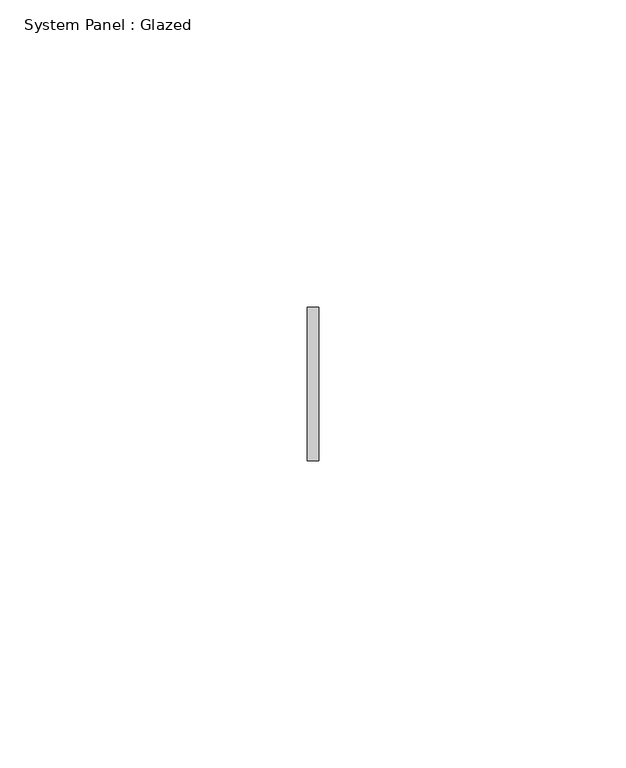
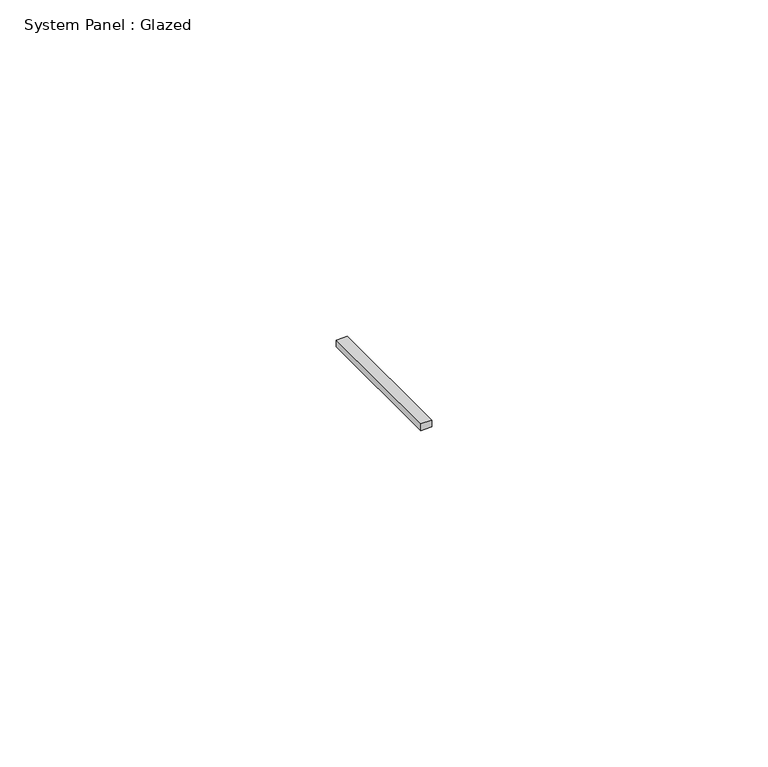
"""IFC4 building model written with IfcOpenShell, lengths in millimetres: plate geometry, System Panel : Glazed."""

import ifcopenshell
import ifcopenshell.guid

model = None  # the IFC model being written
_history = None  # IfcOwnerHistory: only IFC2X3 demands one
_inside = {}  # id of a spatial element -> (the spatial element, [elements in it])
_under = {}  # id of a project, library or spatial element -> (it, [spatial elements below it])
_declared = {}  # id of a project -> (the project, [libraries it declares])
_typed = {}  # id of a type object -> (the type object, [elements of that type])
_made_of = {}  # id of a material, layer set ... -> (it, [elements and type objects made of it])


def new_model(schema):
    """Start an empty IFC model of exactly this schema.

    Asked for "IFC4X3", IfcOpenShell would pick the latest addendum, in which some entities
    have other attributes; the version numbers below select the first issue.
    IFC2X3 requires an IfcOwnerHistory on every rooted entity: one is made here for all.
    """
    global model, _history
    if schema == "IFC4X3":
        model = ifcopenshell.file(schema_version=(4, 3, 0, 0))
    else:
        model = ifcopenshell.file(schema=schema)
    _inside.clear()
    _under.clear()
    _declared.clear()
    _typed.clear()
    _made_of.clear()
    _history = None
    if model.schema == "IFC2X3":
        org = make("IfcOrganization", Name="unknown")
        user = make(
            "IfcPersonAndOrganization",
            ThePerson=make("IfcPerson", FamilyName="unknown"),
            TheOrganization=org,
        )
        app = make(
            "IfcApplication",
            ApplicationDeveloper=org,
            Version="unknown",
            ApplicationFullName="unknown",
            ApplicationIdentifier="unknown",
        )
        _history = make(
            "IfcOwnerHistory",
            OwningUser=user,
            OwningApplication=app,
            ChangeAction="ADDED",
            CreationDate=0,
        )
    return model


def make(cls, **values):
    """One entity of the class cls with the attributes given. An attribute that is None is left unset."""
    return model.create_entity(
        cls, **{name: value for name, value in values.items() if value is not None}
    )


def rooted(cls, **values):
    """An entity with a GlobalId (a new one), such as an element, a storey or a relation."""
    return make(cls, GlobalId=ifcopenshell.guid.new(), OwnerHistory=_history, **values)


def si_unit(unit_type, name, prefix=None):
    """IfcSIUnit, for example si_unit("LENGTHUNIT", "METRE", prefix="MILLI")."""
    return make("IfcSIUnit", UnitType=unit_type, Prefix=prefix, Name=name)


def assignment(units):
    """IfcUnitAssignment: the units of a project."""
    return None if units is None else make("IfcUnitAssignment", Units=units)


def point(xyz):
    """IfcCartesianPoint."""
    return None if xyz is None else make("IfcCartesianPoint", Coordinates=xyz)


def direction(xyz):
    """IfcDirection."""
    return None if xyz is None else make("IfcDirection", DirectionRatios=xyz)


def frame(location, z_axis=None, x_axis=None):
    """IfcAxis2Placement3D, a coordinate frame: its origin and axes. An axis left out is left unset."""
    return make(
        "IfcAxis2Placement3D",
        Location=point(location),
        Axis=direction(z_axis),
        RefDirection=direction(x_axis),
    )


def origin():
    """The frame at (0, 0, 0) with its axes left unset."""
    return frame((0.0, 0.0, 0.0))


def origin_with_axes():
    """The frame at (0, 0, 0) with the z axis (0, 0, 1) and the x axis (1, 0, 0) written out."""
    return frame((0.0, 0.0, 0.0), z_axis=(0.0, 0.0, 1.0), x_axis=(1.0, 0.0, 0.0))


def place(relative_to, where):
    """IfcLocalPlacement: puts the frame where relative to a parent placement (None: the world)."""
    return make(
        "IfcLocalPlacement", PlacementRelTo=relative_to, RelativePlacement=where
    )


def context(
    kind, dimensions, precision=None, world=None, true_north=None, identifier=None
):
    """IfcGeometricRepresentationContext, for example the 3D "Model" context."""
    return make(
        "IfcGeometricRepresentationContext",
        ContextIdentifier=identifier,
        ContextType=kind,
        CoordinateSpaceDimension=dimensions,
        Precision=precision,
        WorldCoordinateSystem=world,
        TrueNorth=true_north,
    )


def project(units=None, contexts=None):
    """IfcProject with its units and contexts."""
    return rooted(
        "IfcProject",
        Name="project",
        RepresentationContexts=contexts,
        UnitsInContext=assignment(units),
    )


def spatial(cls, under=None, at=None, **own):
    """A site, building, storey or space (cls), placed at a placement, below another one or the project."""
    s = rooted(cls, ObjectPlacement=at, **own)
    if under is not None:
        _under.setdefault(under.id(), (under, []))[1].append(s)
    return s


def polyline(points):
    """IfcPolyline through the points."""
    return make("IfcPolyline", Points=[point(p) for p in points])


def outline(outer, holes=None, kind="AREA"):
    """IfcArbitraryClosedProfileDef: a profile drawn as a closed curve; with holes, ...WithVoids."""
    if holes is None:
        return make("IfcArbitraryClosedProfileDef", ProfileType=kind, OuterCurve=outer)
    return make(
        "IfcArbitraryProfileDefWithVoids",
        ProfileType=kind,
        OuterCurve=outer,
        InnerCurves=holes,
    )


def extrude(swept, where, along, depth):
    """IfcExtrudedAreaSolid: the profile swept, set in the frame where, extruded along a direction by depth."""
    return make(
        "IfcExtrudedAreaSolid",
        SweptArea=swept,
        Position=where,
        ExtrudedDirection=direction(along),
        Depth=depth,
    )


def shape(context_of_items, identifier, shape_type, items):
    """IfcShapeRepresentation: the items that make up one representation, for example the "Body"."""
    return make(
        "IfcShapeRepresentation",
        ContextOfItems=context_of_items,
        RepresentationIdentifier=identifier,
        RepresentationType=shape_type,
        Items=items,
    )


def source(mapping_origin, context_of_items, identifier, shape_type, items):
    """IfcRepresentationMap: a shape defined once, which mapped items show again and again."""
    return make(
        "IfcRepresentationMap",
        MappingOrigin=mapping_origin,
        MappedRepresentation=shape(context_of_items, identifier, shape_type, items),
    )


def transform(
    local_origin,
    x_axis=None,
    y_axis=None,
    z_axis=None,
    scale=None,
    scale2=None,
    scale3=None,
    uniform=True,
):
    """IfcCartesianTransformationOperator3D, or its non-uniform kind. x_axis, y_axis, z_axis: its Axis1, 2, 3."""
    if uniform:
        return make(
            "IfcCartesianTransformationOperator3D",
            Axis1=direction(x_axis),
            Axis2=direction(y_axis),
            LocalOrigin=point(local_origin),
            Scale=scale,
            Axis3=direction(z_axis),
        )
    return make(
        "IfcCartesianTransformationOperator3DnonUniform",
        Axis1=direction(x_axis),
        Axis2=direction(y_axis),
        LocalOrigin=point(local_origin),
        Scale=scale,
        Axis3=direction(z_axis),
        Scale2=scale2,
        Scale3=scale3,
    )


def mapped(mapping_source, mapping_target):
    """IfcMappedItem: shows the shape of a source again, moved by a transform."""
    return make(
        "IfcMappedItem", MappingSource=mapping_source, MappingTarget=mapping_target
    )


def made_of(thing, what):
    """Note that an element or type object is made of a material, layer set ...; save() writes the relation."""
    if what is not None:
        _made_of.setdefault(what.id(), (what, []))[1].append(thing)
    return thing


def element(
    cls,
    number,
    at=None,
    inside=None,
    cuts=None,
    type_object=None,
    material=None,
    context=None,
    identifier="Body",
    shape_type=None,
    held_by="IfcProductDefinitionShape",
    body=None,
    shapes=None,
    **own,
):
    """One element of the class cls, such as IfcWall. Its Tag is "e" and its number.

    at: its placement. inside: the storey or other place that contains it. cuts: it is an
    opening in that element (IfcRelVoidsElement). A single representation is given by context,
    identifier, shape_type and body (its items); several are given by shapes. held_by: the class
    of the entity that holds the representations. save() writes the other relations.
    """
    e = rooted(cls, Tag="e%d" % number, ObjectPlacement=at, **own)
    if body is not None:
        shapes = [shape(context, identifier, shape_type, body)]
    if shapes is not None:
        e.Representation = make(held_by, Representations=shapes)
    if inside is not None:
        _inside.setdefault(inside.id(), (inside, []))[1].append(e)
    if cuts is not None:
        rooted(
            "IfcRelVoidsElement", RelatingBuildingElement=cuts, RelatedOpeningElement=e
        )
    if type_object is not None:
        _typed.setdefault(type_object.id(), (type_object, []))[1].append(e)
    return made_of(e, material)


def aggregate(whole, parts):
    """IfcRelAggregates: a whole, such as a stair, and the parts it consists of."""
    return rooted("IfcRelAggregates", RelatingObject=whole, RelatedObjects=parts)


def save(model, path):
    """Write the relations noted so far, then the file.

    IfcRelAggregates (storeys below a building ...), IfcRelContainedInSpatialStructure (elements
    in a storey), IfcRelDefinesByType, IfcRelAssociatesMaterial and IfcRelDeclares: one each for
    every whole, place, type object, material and project.
    """
    for whole, parts in _under.values():
        aggregate(whole, parts)
    for where, things in _inside.values():
        rooted(
            "IfcRelContainedInSpatialStructure",
            RelatedElements=things,
            RelatingStructure=where,
        )
    for kind, things in _typed.values():
        rooted("IfcRelDefinesByType", RelatedObjects=things, RelatingType=kind)
    for what, things in _made_of.values():
        rooted("IfcRelAssociatesMaterial", RelatedObjects=things, RelatingMaterial=what)
    for by, libraries in _declared.values():
        rooted("IfcRelDeclares", RelatingContext=by, RelatedDefinitions=libraries)
    model.write(path)


def system_panel_glazed_0d3d9f87(model_context):
    return source(origin(), model_context, "Body", "SweptSolid", [
        extrude(outline(polyline([(0.9431423, -72.5), (-0.9431423, -72.5), (-0.9431423, -47.5), (0.9431423, -47.5), (0.9431423, -72.5)])), origin_with_axes(), (0.0, 0.0, 1.0), 1.25),
    ])


if __name__ == "__main__":
    model = new_model("IFC4")
    model_context = context("Model", 3, world=origin())
    ifc_project = project(units=[si_unit("LENGTHUNIT", "METRE", prefix="MILLI")], contexts=[model_context])
    site = spatial("IfcSite", under=ifc_project)
    building = spatial("IfcBuilding", under=site)
    placement = place(None, origin())
    system_panel_glazed_shape = system_panel_glazed_0d3d9f87(model_context)
    element("IfcPlate", 1, ObjectType="System Panel : Glazed", at=placement, inside=building, context=model_context, shape_type="MappedRepresentation", body=[
        mapped(system_panel_glazed_shape, transform((0.0, 0.0, 0.0), x_axis=(1.0, 0.0, 0.0), y_axis=(0.0, 1.0, 0.0), z_axis=(0.0, 0.0, 1.0))),
    ])
    save(model, "model.ifc")
